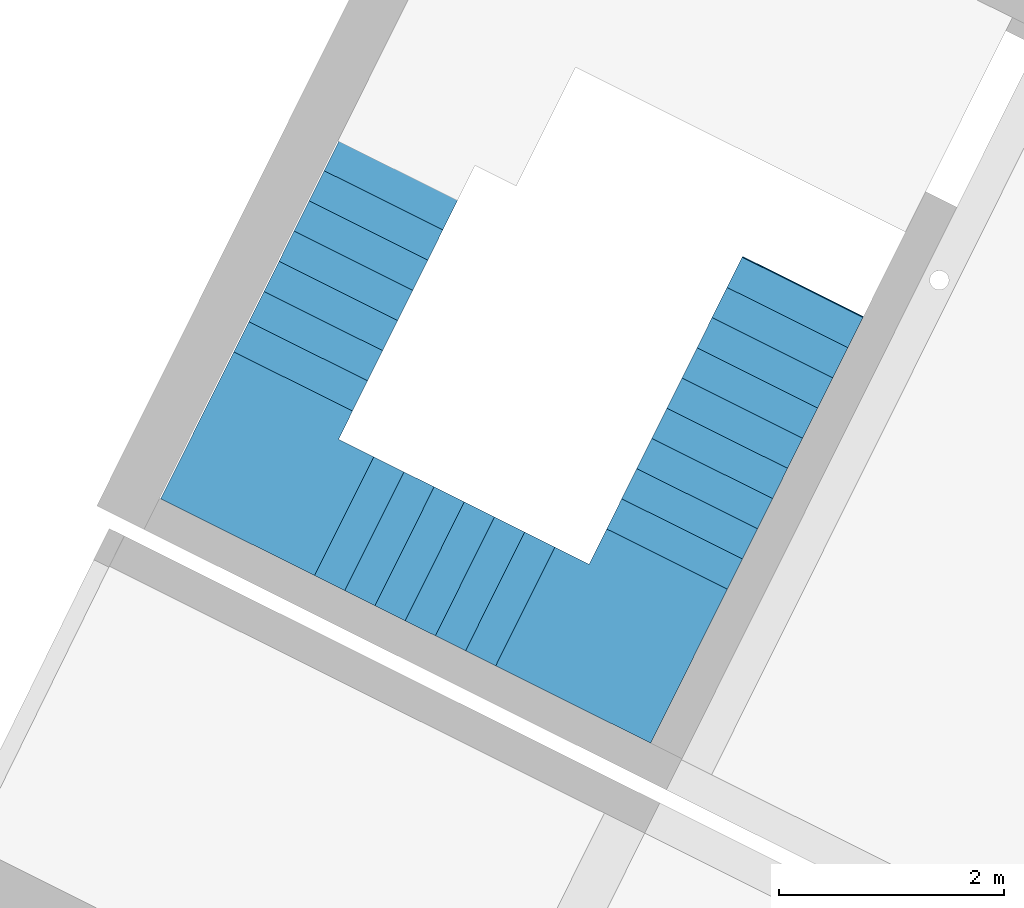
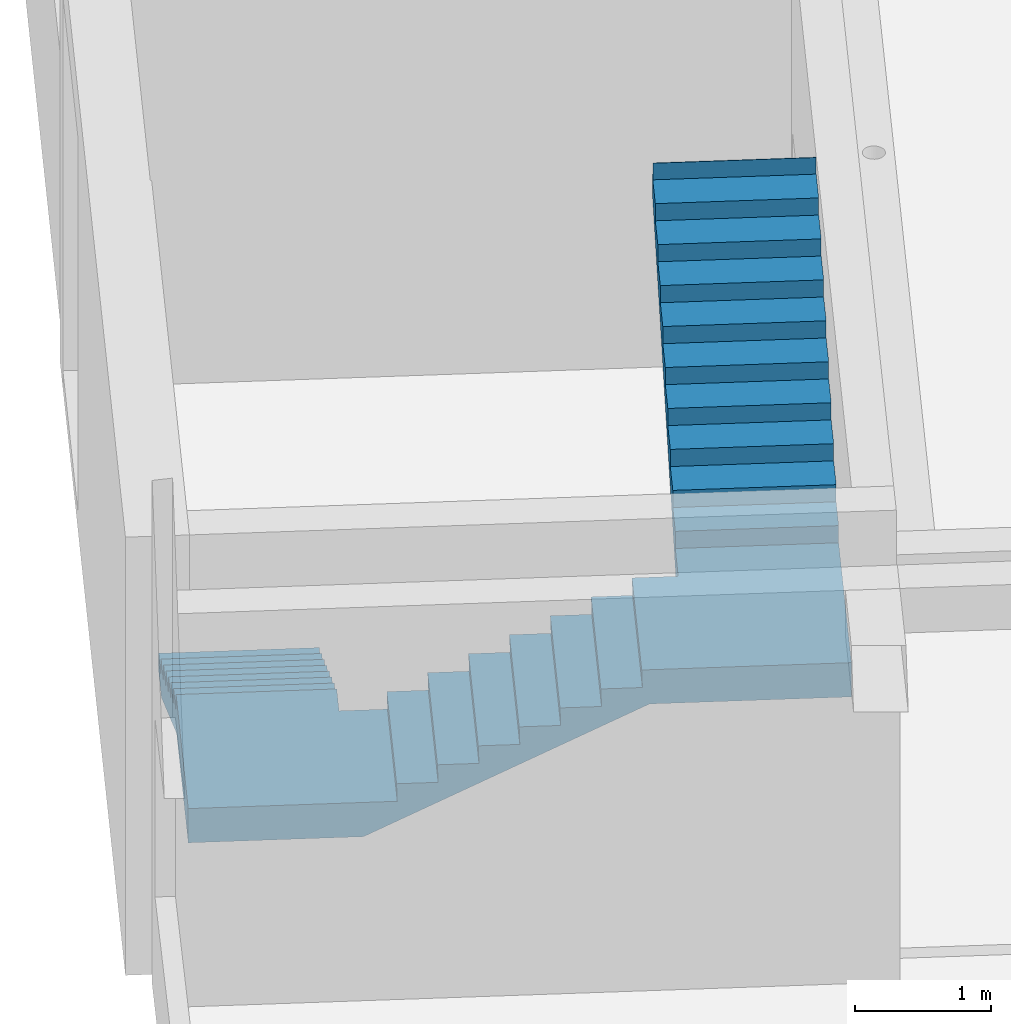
# One storey, part 13 of 47: 1 stair, 1 element without a shape of its own.
"""IFC2X3 building model written with IfcOpenShell, lengths in metres."""

from ifc_helpers import new_model, entity, si_unit, converted_unit, derived_unit, direction, frame, origin, place, context, subcontext, project, spatial, faceted_brep, material, material_list, element, aggregate, save


model = new_model("IFC2X3")

# Units and contexts
model_context = context("Model", 3, precision=1e-05, world=origin(), true_north=direction((0.894925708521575, 0.446215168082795)))
context_of_model = context(None, 3, precision=1e-05, world=origin(), true_north=direction((0.894925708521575, 0.446215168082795)))
body_context = subcontext(model_context, "Body", "Model", "MODEL_VIEW")
ifc_project = project(units=[si_unit("LENGTHUNIT", "METRE"), si_unit("AREAUNIT", "SQUARE_METRE"), si_unit("VOLUMEUNIT", "CUBIC_METRE"), converted_unit("PLANEANGLEUNIT", "DEGREE", entity("IfcRatioMeasure", 0.0174532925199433), si_unit("PLANEANGLEUNIT", "RADIAN"), dimensions=[0, 0, 0, 0, 0, 0, 0]), si_unit("MASSUNIT", "GRAM", prefix="KILO"), si_unit("TIMEUNIT", "SECOND"), si_unit("FREQUENCYUNIT", "HERTZ"), si_unit("THERMODYNAMICTEMPERATUREUNIT", "DEGREE_CELSIUS"), derived_unit("THERMALTRANSMITTANCEUNIT", [(si_unit("MASSUNIT", "GRAM", prefix="KILO"), 1), (si_unit("THERMODYNAMICTEMPERATUREUNIT", "KELVIN"), -1), (si_unit("TIMEUNIT", "SECOND"), -3)]), derived_unit("VOLUMETRICFLOWRATEUNIT", [(si_unit("LENGTHUNIT", "METRE"), 3), (si_unit("TIMEUNIT", "SECOND"), -1)]), si_unit("ELECTRICCURRENTUNIT", "AMPERE"), si_unit("ELECTRICVOLTAGEUNIT", "VOLT"), si_unit("POWERUNIT", "WATT"), si_unit("FORCEUNIT", "NEWTON", prefix="KILO"), si_unit("ILLUMINANCEUNIT", "LUX"), si_unit("LUMINOUSFLUXUNIT", "LUMEN"), si_unit("LUMINOUSINTENSITYUNIT", "CANDELA"), si_unit("PRESSUREUNIT", "PASCAL")], contexts=[model_context, context_of_model])

# Site, building, storey
site_placement = place(None, frame((218.228324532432, 584.720189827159, 0.0), z_axis=(0.0, 0.0, 1.0), x_axis=(0.446215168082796, 0.894925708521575, 0.0)))
site = spatial("IfcSite", under=ifc_project, at=site_placement, Name="Default", CompositionType="ELEMENT")
building_placement = place(site_placement, origin())
building = spatial("IfcBuilding", under=site, at=building_placement, CompositionType="ELEMENT")
storey_placement = place(building_placement, frame((0.0, 0.0, 4.69)))
storey = spatial("IfcBuildingStorey", under=building, at=storey_placement, Name="1 - Piano Primo", CompositionType="ELEMENT", Elevation=4.69)

# Stairs
stair_1_placement = place(storey_placement, frame((-60.2194493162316, 1.10892100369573, 0.0)))
stair_1 = element("IfcStair", 1, at=stair_1_placement, inside=storey, Name="Scala:Cls - Rivertita di gomma", ObjectType="Scala:Cls - Rivertita di gomma", ShapeType="NOTDEFINED")
ifc_material_1 = material(Name="Default - Calcestruzzo")
ifc_material_2 = material(Name="<Unnamed>")
ifc_material_list = material_list([ifc_material_1, ifc_material_2])
stair_2_placement = place(stair_1_placement, origin())
stair_2 = element("IfcStair", 2, at=stair_2_placement, material=ifc_material_list, Name="Scala:Cls - Rivertita di gomma", ObjectType="Scala:Cls - Rivertita di gomma", ShapeType="NOTDEFINED", context=body_context, shape_type="Brep", body=[
    faceted_brep([(1.40269359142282, 3.69000000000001, 0.947987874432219), (1.40269359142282, 4.87000000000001, 0.947987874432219), (3.21644590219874, 4.87000000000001, 0.0), (3.21644590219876, 3.69000000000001, 0.0), (1.18, 3.69000000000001, 0.947987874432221), (1.18, 3.58269359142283, 0.947987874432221), (0.0, 3.58269359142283, 0.947987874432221), (0.0, 4.87000000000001, 0.947987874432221), (1.18, 1.48269359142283, 2.04558787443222), (0.0, 1.48269359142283, 2.04558787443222), (1.18, 1.20000000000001, 2.04558787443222), (1.28730640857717, 1.20000000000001, 2.04558787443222), (1.28730640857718, 0.0, 2.04558787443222), (0.0, 0.0, 2.04558787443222), (4.24016198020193, 1.2, 3.58894705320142), (4.24016198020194, 0.0, 3.58894705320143), (3.55483801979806, 3.69000000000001, 0.1518), (3.55483801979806, 4.87000000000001, 0.1518), (3.24983801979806, 4.87000000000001, 0.1518), (3.24983801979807, 3.69000000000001, 0.1518), (2.94983801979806, 3.69000000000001, 0.308600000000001), (3.25483801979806, 3.69000000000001, 0.308600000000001), (3.25483801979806, 4.87000000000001, 0.308600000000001), (2.94983801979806, 4.87000000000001, 0.308600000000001), (2.64983801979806, 3.69000000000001, 0.4654), (2.95483801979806, 3.69000000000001, 0.4654), (2.95483801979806, 4.87000000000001, 0.4654), (2.64983801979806, 4.87000000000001, 0.4654), (2.34983801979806, 3.69000000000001, 0.622200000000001), (2.65483801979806, 3.69000000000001, 0.622200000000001), (2.65483801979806, 4.87000000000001, 0.622200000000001), (2.34983801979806, 4.87000000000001, 0.622200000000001), (2.04983801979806, 3.69000000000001, 0.779), (2.35483801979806, 3.69000000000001, 0.779), (2.35483801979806, 4.87000000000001, 0.779), (2.04983801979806, 4.87000000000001, 0.779), (1.74983801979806, 3.69000000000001, 0.935800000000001), (2.05483801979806, 3.69000000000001, 0.935800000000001), (2.05483801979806, 4.87000000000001, 0.935800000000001), (1.74983801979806, 4.87000000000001, 0.935800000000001), (1.18, 3.69000000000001, 1.2494), (1.45483801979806, 3.69000000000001, 1.2494), (1.45483801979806, 4.87000000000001, 1.2494), (0.0, 4.87000000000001, 1.2494), (0.0, 3.32983801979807, 1.2494), (1.18, 3.32983801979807, 1.2494), (0.0, 0.0, 2.347), (0.0, 1.53483801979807, 2.347), (0.0, 1.52983801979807, 2.1902), (0.0, 1.83483801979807, 2.1902), (0.0, 1.82983801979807, 2.0334), (0.0, 2.13483801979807, 2.0334), (0.0, 2.12983801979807, 1.8766), (0.0, 2.43483801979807, 1.8766), (0.0, 2.42983801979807, 1.7198), (0.0, 2.73483801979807, 1.7198), (0.0, 2.72983801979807, 1.563), (0.0, 3.03483801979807, 1.563), (0.0, 3.02983801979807, 1.4062), (0.0, 3.33483801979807, 1.4062), (1.18, 3.02983801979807, 1.4062), (1.18, 3.33483801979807, 1.4062), (1.18, 2.72983801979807, 1.563), (1.18, 3.03483801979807, 1.563), (1.18, 2.42983801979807, 1.7198), (1.18, 2.73483801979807, 1.7198), (1.18, 2.12983801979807, 1.8766), (1.18, 2.43483801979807, 1.8766), (1.18, 1.82983801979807, 2.0334), (1.18, 2.13483801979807, 2.0334), (1.18, 1.52983801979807, 2.1902), (1.18, 1.83483801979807, 2.1902), (1.84016198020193, 1.20000000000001, 2.5038), (1.53516198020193, 1.20000000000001, 2.5038), (1.53516198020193, 0.0, 2.5038), (1.84016198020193, 0.0, 2.5038), (3.54999745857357, 4.87000000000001, 0.0), (3.54999745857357, 3.69000000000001, 0.0), (1.75483801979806, 3.69000000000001, 1.0926), (1.44983801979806, 3.69000000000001, 1.0926), (1.44983801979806, 4.87000000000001, 1.0926), (1.75483801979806, 4.87000000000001, 1.0926), (1.18, 1.53483801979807, 2.347), (1.18, 1.20000000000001, 2.347), (1.54016198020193, 0.0, 2.347), (1.54016198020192, 1.20000000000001, 2.347), (1.83516198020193, 1.20000000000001, 2.6606), (2.14016198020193, 1.20000000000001, 2.6606), (2.13516198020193, 1.20000000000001, 2.8174), (2.44016198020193, 1.20000000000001, 2.8174), (2.43516198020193, 1.20000000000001, 2.9742), (2.74016198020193, 1.20000000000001, 2.9742), (2.73516198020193, 1.2, 3.131), (3.04016198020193, 1.2, 3.131), (3.03516198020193, 1.2, 3.2878), (3.34016198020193, 1.2, 3.2878), (3.33516198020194, 1.2, 3.4446), (3.64016198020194, 1.2, 3.4446), (3.63516198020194, 1.2, 3.6014), (3.94016198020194, 1.2, 3.6014), (3.93516198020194, 1.2, 3.7582), (4.24016198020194, 1.2, 3.7582), (4.24016198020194, 0.0, 3.7582), (3.93516198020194, 0.0, 3.7582), (3.94016198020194, 0.0, 3.6014), (3.63516198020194, 0.0, 3.6014), (3.64016198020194, 0.0, 3.4446), (3.33516198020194, 0.0, 3.4446), (3.34016198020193, 0.0, 3.2878), (3.03516198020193, 0.0, 3.2878), (3.04016198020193, 0.0, 3.131), (2.73516198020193, 0.0, 3.131), (2.74016198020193, 0.0, 2.9742), (2.43516198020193, 0.0, 2.9742), (2.44016198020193, 0.0, 2.8174), (2.13516198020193, 0.0, 2.8174), (2.14016198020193, 0.0, 2.6606), (1.83516198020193, 0.0, 2.6606)], [[[0, 1, 2, 3]], [[1, 0, 4, 5, 6, 7]], [[6, 5, 8, 9]], [[9, 8, 10, 11, 12, 13]], [[12, 11, 14, 15]], [[16, 17, 18, 19]], [[20, 21, 22, 23]], [[24, 25, 26, 27]], [[28, 29, 30, 31]], [[32, 33, 34, 35]], [[36, 37, 38, 39]], [[40, 41, 42, 43, 44, 45]], [[44, 43, 7, 6, 9, 13, 46, 47, 48, 49, 50, 51, 52, 53, 54, 55, 56, 57, 58, 59]], [[60, 61, 59, 58]], [[62, 63, 57, 56]], [[64, 65, 55, 54]], [[66, 67, 53, 52]], [[68, 69, 51, 50]], [[70, 71, 49, 48]], [[72, 73, 74, 75]], [[76, 77, 3, 2]], [[16, 19, 21, 20, 25, 24, 29, 28, 33, 32, 37, 36, 78, 79, 41, 40, 4, 0, 3, 77]], [[18, 17, 76, 2, 1, 7, 43, 42, 80, 81, 39, 38, 35, 34, 31, 30, 27, 26, 23, 22]], [[79, 78, 81, 80]], [[40, 45, 61, 60, 63, 62, 65, 64, 67, 66, 69, 68, 71, 70, 82, 83, 10, 8, 5, 4]], [[83, 82, 47, 46, 84, 85]], [[83, 85, 73, 72, 86, 87, 88, 89, 90, 91, 92, 93, 94, 95, 96, 97, 98, 99, 100, 101, 14, 11, 10]], [[84, 46, 13, 12, 15, 102, 103, 104, 105, 106, 107, 108, 109, 110, 111, 112, 113, 114, 115, 116, 117, 75, 74]], [[87, 86, 117, 116]], [[89, 88, 115, 114]], [[91, 90, 113, 112]], [[93, 92, 111, 110]], [[95, 94, 109, 108]], [[97, 96, 107, 106]], [[99, 98, 105, 104]], [[101, 100, 103, 102]], [[101, 102, 15, 14]], [[17, 16, 77, 76]], [[19, 18, 22, 21]], [[25, 20, 23, 26]], [[29, 24, 27, 30]], [[33, 28, 31, 34]], [[37, 32, 35, 38]], [[78, 36, 39, 81]], [[41, 79, 80, 42]], [[45, 44, 59, 61]], [[63, 60, 58, 57]], [[65, 62, 56, 55]], [[67, 64, 54, 53]], [[69, 66, 52, 51]], [[71, 68, 50, 49]], [[82, 70, 48, 47]], [[85, 84, 74, 73]], [[86, 72, 75, 117]], [[88, 87, 116, 115]], [[90, 89, 114, 113]], [[92, 91, 112, 111]], [[94, 93, 110, 109]], [[96, 95, 108, 107]], [[98, 97, 106, 105]], [[100, 99, 104, 103]]]),
    faceted_brep([(3.255, 3.69000000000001, 0.1568), (3.56, 3.69000000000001, 0.1568), (3.56, 4.87000000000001, 0.1568), (3.255, 4.87000000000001, 0.1568), (3.56, 3.69000000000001, 0.1518), (3.255, 3.69000000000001, 0.1518), (3.255, 4.87000000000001, 0.1518), (3.56, 4.87000000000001, 0.1518)], [[[0, 1, 2, 3]], [[4, 5, 6, 7]], [[2, 1, 4, 7]], [[0, 3, 6, 5]], [[1, 0, 5, 4]], [[3, 2, 7, 6]]]),
    faceted_brep([(3.55984056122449, 4.87000000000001, 0.1518), (3.555, 4.87000000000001, 0.0), (3.54999745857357, 4.87000000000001, 0.0), (3.55483801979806, 4.87000000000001, 0.1518), (3.55984056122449, 3.69000000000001, 0.1518), (3.55483801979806, 3.69000000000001, 0.1518), (3.54999745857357, 3.69000000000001, 0.0), (3.555, 3.69000000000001, 0.0)], [[[0, 1, 2, 3]], [[4, 5, 6, 7]], [[1, 0, 4, 7]], [[2, 1, 7, 6]], [[3, 2, 6, 5]], [[0, 3, 5, 4]]]),
    faceted_brep([(3.25984056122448, 4.87000000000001, 0.308600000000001), (3.25484056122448, 4.87000000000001, 0.1518), (3.24983801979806, 4.87000000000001, 0.1518), (3.25483801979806, 4.87000000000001, 0.308600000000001), (3.25984056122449, 3.69000000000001, 0.308600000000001), (3.25483801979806, 3.69000000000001, 0.308600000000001), (3.24983801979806, 3.69000000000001, 0.1518), (3.25484056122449, 3.69000000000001, 0.1518)], [[[0, 1, 2, 3]], [[4, 5, 6, 7]], [[1, 0, 4, 7]], [[2, 1, 7, 6]], [[3, 2, 6, 5]], [[0, 3, 5, 4]]]),
    faceted_brep([(2.955, 3.69000000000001, 0.3136), (3.26, 3.69000000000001, 0.3136), (3.26, 4.87000000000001, 0.3136), (2.955, 4.87000000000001, 0.3136), (3.26, 3.69000000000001, 0.308600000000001), (2.955, 3.69000000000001, 0.308600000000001), (2.955, 4.87000000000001, 0.308600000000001), (3.26, 4.87000000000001, 0.308600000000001)], [[[0, 1, 2, 3]], [[4, 5, 6, 7]], [[0, 3, 6, 5]], [[1, 0, 5, 4]], [[3, 2, 7, 6]], [[2, 1, 4, 7]]]),
    faceted_brep([(2.95984056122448, 4.87000000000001, 0.4654), (2.95484056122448, 4.87000000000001, 0.308600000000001), (2.94983801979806, 4.87000000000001, 0.308600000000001), (2.95483801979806, 4.87000000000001, 0.4654), (2.95984056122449, 3.69000000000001, 0.4654), (2.95483801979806, 3.69000000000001, 0.4654), (2.94983801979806, 3.69000000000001, 0.308600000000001), (2.95484056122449, 3.69000000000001, 0.308600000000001)], [[[0, 1, 2, 3]], [[4, 5, 6, 7]], [[1, 0, 4, 7]], [[2, 1, 7, 6]], [[3, 2, 6, 5]], [[0, 3, 5, 4]]]),
    faceted_brep([(2.65499999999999, 3.69000000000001, 0.470400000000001), (2.95999999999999, 3.69000000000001, 0.470400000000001), (2.95999999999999, 4.87000000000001, 0.470400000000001), (2.65499999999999, 4.87000000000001, 0.470400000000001), (2.95999999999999, 3.69000000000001, 0.4654), (2.65499999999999, 3.69000000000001, 0.4654), (2.65499999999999, 4.87000000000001, 0.4654), (2.95999999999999, 4.87000000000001, 0.4654)], [[[0, 1, 2, 3]], [[4, 5, 6, 7]], [[0, 3, 6, 5]], [[1, 0, 5, 4]], [[3, 2, 7, 6]], [[2, 1, 4, 7]]]),
    faceted_brep([(2.65984056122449, 4.87000000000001, 0.622200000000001), (2.65484056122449, 4.87000000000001, 0.4654), (2.64983801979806, 4.87000000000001, 0.4654), (2.65483801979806, 4.87000000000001, 0.622200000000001), (2.65984056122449, 3.69000000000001, 0.622200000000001), (2.65483801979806, 3.69000000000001, 0.622200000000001), (2.64983801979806, 3.69000000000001, 0.4654), (2.6548405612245, 3.69000000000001, 0.4654)], [[[0, 1, 2, 3]], [[4, 5, 6, 7]], [[1, 0, 4, 7]], [[2, 1, 7, 6]], [[3, 2, 6, 5]], [[0, 3, 5, 4]]]),
    faceted_brep([(2.355, 3.69000000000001, 0.6272), (2.66, 3.69000000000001, 0.6272), (2.66, 4.87000000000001, 0.6272), (2.355, 4.87000000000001, 0.6272), (2.66, 3.69000000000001, 0.622200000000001), (2.355, 3.69000000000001, 0.622200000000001), (2.355, 4.87000000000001, 0.622200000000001), (2.66, 4.87000000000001, 0.622200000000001)], [[[0, 1, 2, 3]], [[4, 5, 6, 7]], [[0, 3, 6, 5]], [[1, 0, 5, 4]], [[3, 2, 7, 6]], [[2, 1, 4, 7]]]),
    faceted_brep([(2.35984056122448, 4.87000000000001, 0.779), (2.35484056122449, 4.87000000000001, 0.622199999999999), (2.34983801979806, 4.87000000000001, 0.622199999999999), (2.35483801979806, 4.87000000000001, 0.779), (2.35984056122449, 3.69000000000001, 0.779), (2.35483801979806, 3.69000000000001, 0.779), (2.34983801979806, 3.69000000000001, 0.622199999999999), (2.35484056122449, 3.69000000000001, 0.622199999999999)], [[[0, 1, 2, 3]], [[4, 5, 6, 7]], [[1, 0, 4, 7]], [[2, 1, 7, 6]], [[3, 2, 6, 5]], [[0, 3, 5, 4]]]),
    faceted_brep([(2.055, 3.69000000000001, 0.783999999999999), (2.36, 3.69000000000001, 0.783999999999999), (2.36, 4.87000000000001, 0.783999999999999), (2.055, 4.87000000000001, 0.783999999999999), (2.36, 3.69000000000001, 0.779), (2.055, 3.69000000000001, 0.779), (2.055, 4.87000000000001, 0.779), (2.36, 4.87000000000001, 0.779)], [[[0, 1, 2, 3]], [[4, 5, 6, 7]], [[0, 3, 6, 5]], [[1, 0, 5, 4]], [[3, 2, 7, 6]], [[2, 1, 4, 7]]]),
    faceted_brep([(2.05984056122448, 4.87000000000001, 0.935800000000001), (2.05484056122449, 4.87000000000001, 0.779), (2.04983801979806, 4.87000000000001, 0.779), (2.05483801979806, 4.87000000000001, 0.935800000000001), (2.05984056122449, 3.69000000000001, 0.935800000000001), (2.05483801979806, 3.69000000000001, 0.935800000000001), (2.04983801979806, 3.69000000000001, 0.779), (2.05484056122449, 3.69000000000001, 0.779)], [[[0, 1, 2, 3]], [[4, 5, 6, 7]], [[1, 0, 4, 7]], [[2, 1, 7, 6]], [[3, 2, 6, 5]], [[0, 3, 5, 4]]]),
    faceted_brep([(1.755, 3.69000000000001, 0.9408), (2.06, 3.69000000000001, 0.9408), (2.06, 4.87000000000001, 0.9408), (1.755, 4.87000000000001, 0.9408), (2.06, 3.69000000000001, 0.935800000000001), (1.755, 3.69000000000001, 0.935800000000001), (1.755, 4.87000000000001, 0.935800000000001), (2.06, 4.87000000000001, 0.935800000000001)], [[[0, 1, 2, 3]], [[4, 5, 6, 7]], [[0, 3, 6, 5]], [[1, 0, 5, 4]], [[3, 2, 7, 6]], [[2, 1, 4, 7]]]),
    faceted_brep([(1.45984056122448, 4.87000000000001, 1.2494), (1.45484056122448, 4.87000000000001, 1.0926), (1.44983801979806, 4.87000000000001, 1.0926), (1.45483801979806, 4.87000000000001, 1.2494), (1.45984056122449, 3.69000000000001, 1.2494), (1.45483801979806, 3.69000000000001, 1.2494), (1.44983801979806, 3.69000000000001, 1.0926), (1.45484056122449, 3.69000000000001, 1.0926)], [[[0, 1, 2, 3]], [[4, 5, 6, 7]], [[1, 0, 4, 7]], [[2, 1, 7, 6]], [[3, 2, 6, 5]], [[0, 3, 5, 4]]]),
    faceted_brep([(1.18, 3.33500000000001, 1.2544), (1.18, 3.69000000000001, 1.2544), (1.46, 3.69000000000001, 1.2544), (1.46, 4.87000000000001, 1.2544), (0.0, 4.87000000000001, 1.2544), (0.0, 3.33500000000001, 1.2544), (1.18, 3.69000000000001, 1.2494), (1.18, 3.33500000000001, 1.2494), (0.0, 3.33500000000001, 1.2494), (0.0, 4.87000000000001, 1.2494), (1.46, 4.87000000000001, 1.2494), (1.46, 3.69000000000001, 1.2494)], [[[0, 1, 2, 3, 4, 5]], [[6, 7, 8, 9, 10, 11]], [[4, 3, 10, 9]], [[5, 4, 9, 8]], [[0, 5, 8, 7]], [[1, 0, 7, 6]], [[2, 1, 6, 11]], [[3, 2, 11, 10]]]),
    faceted_brep([(0.0, 3.3398405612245, 1.4062), (0.0, 3.3348405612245, 1.2494), (0.0, 3.32983801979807, 1.2494), (0.0, 3.33483801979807, 1.4062), (1.18, 3.3398405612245, 1.4062), (1.18, 3.33483801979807, 1.4062), (1.18, 3.32983801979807, 1.2494), (1.18, 3.3348405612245, 1.2494)], [[[0, 1, 2, 3]], [[4, 5, 6, 7]], [[1, 0, 4, 7]], [[2, 1, 7, 6]], [[3, 2, 6, 5]], [[0, 3, 5, 4]]]),
    faceted_brep([(1.18, 3.03500000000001, 1.4112), (1.18, 3.34000000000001, 1.4112), (0.0, 3.34000000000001, 1.4112), (0.0, 3.03500000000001, 1.4112), (1.18, 3.34000000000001, 1.4062), (1.18, 3.03500000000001, 1.4062), (0.0, 3.03500000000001, 1.4062), (0.0, 3.34000000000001, 1.4062)], [[[0, 1, 2, 3]], [[4, 5, 6, 7]], [[3, 2, 7, 6]], [[0, 3, 6, 5]], [[1, 0, 5, 4]], [[2, 1, 4, 7]]]),
    faceted_brep([(0.0, 3.0398405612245, 1.563), (0.0, 3.0348405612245, 1.4062), (0.0, 3.02983801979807, 1.4062), (0.0, 3.03483801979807, 1.563), (1.18, 3.0398405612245, 1.563), (1.18, 3.03483801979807, 1.563), (1.18, 3.02983801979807, 1.4062), (1.18, 3.0348405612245, 1.4062)], [[[0, 1, 2, 3]], [[4, 5, 6, 7]], [[1, 0, 4, 7]], [[2, 1, 7, 6]], [[3, 2, 6, 5]], [[0, 3, 5, 4]]]),
    faceted_brep([(1.18, 2.73500000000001, 1.568), (1.18, 3.04000000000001, 1.568), (0.0, 3.04000000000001, 1.568), (0.0, 2.73500000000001, 1.568), (1.18, 3.04000000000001, 1.563), (1.18, 2.73500000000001, 1.563), (0.0, 2.73500000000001, 1.563), (0.0, 3.04000000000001, 1.563)], [[[0, 1, 2, 3]], [[4, 5, 6, 7]], [[3, 2, 7, 6]], [[0, 3, 6, 5]], [[1, 0, 5, 4]], [[2, 1, 4, 7]]]),
    faceted_brep([(0.0, 2.7398405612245, 1.7198), (0.0, 2.7348405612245, 1.563), (0.0, 2.72983801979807, 1.563), (0.0, 2.73483801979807, 1.7198), (1.18, 2.7398405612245, 1.7198), (1.18, 2.73483801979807, 1.7198), (1.18, 2.72983801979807, 1.563), (1.18, 2.7348405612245, 1.563)], [[[0, 1, 2, 3]], [[4, 5, 6, 7]], [[1, 0, 4, 7]], [[2, 1, 7, 6]], [[3, 2, 6, 5]], [[0, 3, 5, 4]]]),
    faceted_brep([(1.18, 2.43500000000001, 1.7248), (1.18, 2.74000000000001, 1.7248), (0.0, 2.74000000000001, 1.7248), (0.0, 2.43500000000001, 1.7248), (1.18, 2.74000000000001, 1.7198), (1.18, 2.43500000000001, 1.7198), (0.0, 2.43500000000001, 1.7198), (0.0, 2.74000000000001, 1.7198)], [[[0, 1, 2, 3]], [[4, 5, 6, 7]], [[3, 2, 7, 6]], [[0, 3, 6, 5]], [[1, 0, 5, 4]], [[2, 1, 4, 7]]]),
    faceted_brep([(0.0, 2.4398405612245, 1.8766), (0.0, 2.4348405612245, 1.7198), (0.0, 2.42983801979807, 1.7198), (0.0, 2.43483801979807, 1.8766), (1.18, 2.4398405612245, 1.8766), (1.18, 2.43483801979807, 1.8766), (1.18, 2.42983801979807, 1.7198), (1.18, 2.4348405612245, 1.7198)], [[[0, 1, 2, 3]], [[4, 5, 6, 7]], [[1, 0, 4, 7]], [[2, 1, 7, 6]], [[3, 2, 6, 5]], [[0, 3, 5, 4]]]),
    faceted_brep([(1.18, 2.13500000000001, 1.8816), (1.18, 2.44000000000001, 1.8816), (0.0, 2.44000000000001, 1.8816), (0.0, 2.13500000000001, 1.8816), (1.18, 2.44000000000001, 1.8766), (1.18, 2.13500000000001, 1.8766), (0.0, 2.13500000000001, 1.8766), (0.0, 2.44000000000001, 1.8766)], [[[0, 1, 2, 3]], [[4, 5, 6, 7]], [[3, 2, 7, 6]], [[0, 3, 6, 5]], [[1, 0, 5, 4]], [[2, 1, 4, 7]]]),
    faceted_brep([(0.0, 2.1398405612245, 2.0334), (0.0, 2.1348405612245, 1.8766), (0.0, 2.12983801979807, 1.8766), (0.0, 2.13483801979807, 2.0334), (1.18, 2.1398405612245, 2.0334), (1.18, 2.13483801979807, 2.0334), (1.18, 2.12983801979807, 1.8766), (1.18, 2.1348405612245, 1.8766)], [[[0, 1, 2, 3]], [[4, 5, 6, 7]], [[1, 0, 4, 7]], [[2, 1, 7, 6]], [[3, 2, 6, 5]], [[0, 3, 5, 4]]]),
    faceted_brep([(1.18, 1.83500000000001, 2.0384), (1.18, 2.14000000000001, 2.0384), (0.0, 2.14000000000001, 2.0384), (0.0, 1.83500000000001, 2.0384), (1.18, 2.14000000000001, 2.0334), (1.18, 1.83500000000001, 2.0334), (0.0, 1.83500000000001, 2.0334), (0.0, 2.14000000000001, 2.0334)], [[[0, 1, 2, 3]], [[4, 5, 6, 7]], [[3, 2, 7, 6]], [[0, 3, 6, 5]], [[1, 0, 5, 4]], [[2, 1, 4, 7]]]),
    faceted_brep([(0.0, 1.8398405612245, 2.1902), (0.0, 1.8348405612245, 2.0334), (0.0, 1.82983801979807, 2.0334), (0.0, 1.83483801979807, 2.1902), (1.18, 1.8398405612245, 2.1902), (1.18, 1.83483801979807, 2.1902), (1.18, 1.82983801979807, 2.0334), (1.18, 1.8348405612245, 2.0334)], [[[0, 1, 2, 3]], [[4, 5, 6, 7]], [[1, 0, 4, 7]], [[2, 1, 7, 6]], [[3, 2, 6, 5]], [[0, 3, 5, 4]]]),
    faceted_brep([(1.18, 1.53500000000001, 2.1952), (1.18, 1.84000000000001, 2.1952), (0.0, 1.84000000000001, 2.1952), (0.0, 1.53500000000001, 2.1952), (1.18, 1.84000000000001, 2.1902), (1.18, 1.53500000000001, 2.1902), (0.0, 1.53500000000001, 2.1902), (0.0, 1.84000000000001, 2.1902)], [[[0, 1, 2, 3]], [[4, 5, 6, 7]], [[3, 2, 7, 6]], [[0, 3, 6, 5]], [[1, 0, 5, 4]], [[2, 1, 4, 7]]]),
    faceted_brep([(1.83499999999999, 1.20000000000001, 2.5088), (1.52999999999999, 1.20000000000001, 2.5088), (1.52999999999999, 0.0, 2.5088), (1.83499999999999, 0.0, 2.5088), (1.52999999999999, 1.20000000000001, 2.5038), (1.83499999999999, 1.20000000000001, 2.5038), (1.83499999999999, 0.0, 2.5038), (1.52999999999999, 0.0, 2.5038)], [[[0, 1, 2, 3]], [[4, 5, 6, 7]], [[1, 0, 5, 4]], [[3, 2, 7, 6]], [[0, 3, 6, 5]], [[2, 1, 4, 7]]]),
    faceted_brep([(1.75984056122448, 4.87000000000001, 1.0926), (1.75484056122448, 4.87000000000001, 0.935799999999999), (1.74983801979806, 4.87000000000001, 0.935799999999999), (1.75483801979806, 4.87000000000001, 1.0926), (1.75984056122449, 3.69000000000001, 1.0926), (1.75483801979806, 3.69000000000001, 1.0926), (1.74983801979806, 3.69000000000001, 0.935799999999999), (1.75484056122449, 3.69000000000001, 0.935799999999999)], [[[0, 1, 2, 3]], [[4, 5, 6, 7]], [[1, 0, 4, 7]], [[2, 1, 7, 6]], [[3, 2, 6, 5]], [[0, 3, 5, 4]]]),
    faceted_brep([(1.455, 3.69000000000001, 1.0976), (1.76, 3.69000000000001, 1.0976), (1.76, 4.87000000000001, 1.0976), (1.455, 4.87000000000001, 1.0976), (1.76, 3.69000000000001, 1.0926), (1.455, 3.69000000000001, 1.0926), (1.455, 4.87000000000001, 1.0926), (1.76, 4.87000000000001, 1.0926)], [[[0, 1, 2, 3]], [[4, 5, 6, 7]], [[1, 0, 5, 4]], [[3, 2, 7, 6]], [[0, 3, 6, 5]], [[2, 1, 4, 7]]]),
    faceted_brep([(0.0, 1.5398405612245, 2.347), (0.0, 1.5348405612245, 2.1902), (0.0, 1.52983801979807, 2.1902), (0.0, 1.53483801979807, 2.347), (1.18, 1.5398405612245, 2.347), (1.18, 1.53483801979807, 2.347), (1.18, 1.52983801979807, 2.1902), (1.18, 1.5348405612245, 2.1902)], [[[0, 1, 2, 3]], [[4, 5, 6, 7]], [[1, 0, 4, 7]], [[2, 1, 7, 6]], [[3, 2, 6, 5]], [[0, 3, 5, 4]]]),
    faceted_brep([(1.53499999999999, 1.20000000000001, 2.352), (1.18, 1.20000000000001, 2.352), (1.18, 1.54000000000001, 2.352), (0.0, 1.54000000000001, 2.352), (0.0, 0.0, 2.352), (1.53499999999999, 0.0, 2.352), (1.18, 1.20000000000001, 2.347), (1.53499999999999, 1.20000000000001, 2.347), (1.53499999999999, 0.0, 2.347), (0.0, 0.0, 2.347), (0.0, 1.54000000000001, 2.347), (1.18, 1.54000000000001, 2.347)], [[[0, 1, 2, 3, 4, 5]], [[6, 7, 8, 9, 10, 11]], [[1, 0, 7, 6]], [[2, 1, 6, 11]], [[4, 3, 10, 9]], [[5, 4, 9, 8]], [[0, 5, 8, 7]], [[3, 2, 11, 10]]]),
    faceted_brep([(1.53015943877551, 0.0, 2.5038), (1.5351594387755, 0.0, 2.347), (1.54016198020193, 0.0, 2.347), (1.53516198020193, 0.0, 2.5038), (1.5301594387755, 1.20000000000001, 2.5038), (1.53516198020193, 1.20000000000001, 2.5038), (1.54016198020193, 1.20000000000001, 2.347), (1.5351594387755, 1.20000000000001, 2.347)], [[[0, 1, 2, 3]], [[4, 5, 6, 7]], [[1, 0, 4, 7]], [[2, 1, 7, 6]], [[3, 2, 6, 5]], [[0, 3, 5, 4]]]),
    faceted_brep([(1.83015943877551, 0.0, 2.6606), (1.83515943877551, 0.0, 2.5038), (1.84016198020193, 0.0, 2.5038), (1.83516198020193, 0.0, 2.6606), (1.8301594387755, 1.20000000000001, 2.6606), (1.83516198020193, 1.20000000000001, 2.6606), (1.84016198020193, 1.20000000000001, 2.5038), (1.8351594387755, 1.20000000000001, 2.5038)], [[[0, 1, 2, 3]], [[4, 5, 6, 7]], [[1, 0, 4, 7]], [[2, 1, 7, 6]], [[3, 2, 6, 5]], [[0, 3, 5, 4]]]),
    faceted_brep([(2.13499999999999, 1.20000000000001, 2.6656), (1.82999999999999, 1.20000000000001, 2.6656), (1.82999999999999, 0.0, 2.6656), (2.13499999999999, 0.0, 2.6656), (1.82999999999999, 1.20000000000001, 2.6606), (2.13499999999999, 1.20000000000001, 2.6606), (2.13499999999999, 0.0, 2.6606), (1.82999999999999, 0.0, 2.6606)], [[[0, 1, 2, 3]], [[4, 5, 6, 7]], [[1, 0, 5, 4]], [[3, 2, 7, 6]], [[0, 3, 6, 5]], [[2, 1, 4, 7]]]),
    faceted_brep([(2.13015943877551, 0.0, 2.8174), (2.13515943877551, 0.0, 2.6606), (2.14016198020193, 0.0, 2.6606), (2.13516198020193, 0.0, 2.8174), (2.1301594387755, 1.20000000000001, 2.8174), (2.13516198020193, 1.20000000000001, 2.8174), (2.14016198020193, 1.20000000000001, 2.6606), (2.1351594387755, 1.20000000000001, 2.6606)], [[[0, 1, 2, 3]], [[4, 5, 6, 7]], [[1, 0, 4, 7]], [[2, 1, 7, 6]], [[3, 2, 6, 5]], [[0, 3, 5, 4]]]),
    faceted_brep([(2.43499999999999, 1.20000000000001, 2.8224), (2.12999999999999, 1.20000000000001, 2.8224), (2.12999999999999, 0.0, 2.8224), (2.43499999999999, 0.0, 2.8224), (2.12999999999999, 1.20000000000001, 2.8174), (2.43499999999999, 1.20000000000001, 2.8174), (2.43499999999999, 0.0, 2.8174), (2.12999999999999, 0.0, 2.8174)], [[[0, 1, 2, 3]], [[4, 5, 6, 7]], [[1, 0, 5, 4]], [[3, 2, 7, 6]], [[0, 3, 6, 5]], [[2, 1, 4, 7]]]),
    faceted_brep([(2.43015943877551, 0.0, 2.9742), (2.43515943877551, 0.0, 2.8174), (2.44016198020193, 0.0, 2.8174), (2.43516198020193, 0.0, 2.9742), (2.4301594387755, 1.20000000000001, 2.9742), (2.43516198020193, 1.20000000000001, 2.9742), (2.44016198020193, 1.20000000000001, 2.8174), (2.4351594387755, 1.20000000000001, 2.8174)], [[[0, 1, 2, 3]], [[4, 5, 6, 7]], [[1, 0, 4, 7]], [[2, 1, 7, 6]], [[3, 2, 6, 5]], [[0, 3, 5, 4]]]),
    faceted_brep([(2.73499999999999, 1.20000000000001, 2.9792), (2.42999999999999, 1.20000000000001, 2.9792), (2.42999999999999, 0.0, 2.9792), (2.73499999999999, 0.0, 2.9792), (2.42999999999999, 1.20000000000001, 2.9742), (2.73499999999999, 1.20000000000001, 2.9742), (2.73499999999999, 0.0, 2.9742), (2.42999999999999, 0.0, 2.9742)], [[[0, 1, 2, 3]], [[4, 5, 6, 7]], [[1, 0, 5, 4]], [[3, 2, 7, 6]], [[0, 3, 6, 5]], [[2, 1, 4, 7]]]),
    faceted_brep([(2.73015943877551, 0.0, 3.131), (2.73515943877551, 0.0, 2.9742), (2.74016198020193, 0.0, 2.9742), (2.73516198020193, 0.0, 3.131), (2.7301594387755, 1.20000000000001, 3.131), (2.73516198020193, 1.20000000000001, 3.131), (2.74016198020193, 1.20000000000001, 2.9742), (2.7351594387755, 1.20000000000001, 2.9742)], [[[0, 1, 2, 3]], [[4, 5, 6, 7]], [[1, 0, 4, 7]], [[2, 1, 7, 6]], [[3, 2, 6, 5]], [[0, 3, 5, 4]]]),
    faceted_brep([(3.03499999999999, 1.2, 3.136), (2.72999999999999, 1.20000000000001, 3.136), (2.72999999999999, 0.0, 3.136), (3.03499999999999, 0.0, 3.136), (2.72999999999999, 1.20000000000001, 3.131), (3.03499999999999, 1.2, 3.131), (3.03499999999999, 0.0, 3.131), (2.72999999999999, 0.0, 3.131)], [[[0, 1, 2, 3]], [[4, 5, 6, 7]], [[1, 0, 5, 4]], [[3, 2, 7, 6]], [[0, 3, 6, 5]], [[2, 1, 4, 7]]]),
    faceted_brep([(3.03015943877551, 0.0, 3.2878), (3.03515943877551, 0.0, 3.131), (3.04016198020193, 0.0, 3.131), (3.03516198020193, 0.0, 3.2878), (3.0301594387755, 1.2, 3.2878), (3.03516198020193, 1.2, 3.2878), (3.04016198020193, 1.2, 3.131), (3.0351594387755, 1.2, 3.131)], [[[0, 1, 2, 3]], [[4, 5, 6, 7]], [[1, 0, 4, 7]], [[2, 1, 7, 6]], [[3, 2, 6, 5]], [[0, 3, 5, 4]]]),
    faceted_brep([(3.335, 1.2, 3.2928), (3.03, 1.2, 3.2928), (3.03, 0.0, 3.2928), (3.335, 0.0, 3.2928), (3.03, 1.2, 3.2878), (3.335, 1.2, 3.2878), (3.335, 0.0, 3.2878), (3.03, 0.0, 3.2878)], [[[0, 1, 2, 3]], [[4, 5, 6, 7]], [[1, 0, 5, 4]], [[3, 2, 7, 6]], [[0, 3, 6, 5]], [[2, 1, 4, 7]]]),
    faceted_brep([(3.33015943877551, 0.0, 3.4446), (3.33515943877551, 0.0, 3.2878), (3.34016198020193, 0.0, 3.2878), (3.33516198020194, 0.0, 3.4446), (3.3301594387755, 1.2, 3.4446), (3.33516198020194, 1.2, 3.4446), (3.34016198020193, 1.2, 3.2878), (3.3351594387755, 1.2, 3.2878)], [[[0, 1, 2, 3]], [[4, 5, 6, 7]], [[1, 0, 4, 7]], [[2, 1, 7, 6]], [[3, 2, 6, 5]], [[0, 3, 5, 4]]]),
    faceted_brep([(3.635, 1.2, 3.4496), (3.33, 1.2, 3.4496), (3.33, 0.0, 3.4496), (3.635, 0.0, 3.4496), (3.33, 1.2, 3.4446), (3.635, 1.2, 3.4446), (3.635, 0.0, 3.4446), (3.33, 0.0, 3.4446)], [[[0, 1, 2, 3]], [[4, 5, 6, 7]], [[1, 0, 5, 4]], [[3, 2, 7, 6]], [[0, 3, 6, 5]], [[2, 1, 4, 7]]]),
    faceted_brep([(3.63015943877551, 0.0, 3.6014), (3.63515943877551, 0.0, 3.4446), (3.64016198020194, 0.0, 3.4446), (3.63516198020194, 0.0, 3.6014), (3.6301594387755, 1.2, 3.6014), (3.63516198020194, 1.2, 3.6014), (3.64016198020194, 1.2, 3.4446), (3.6351594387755, 1.2, 3.4446)], [[[0, 1, 2, 3]], [[4, 5, 6, 7]], [[1, 0, 4, 7]], [[2, 1, 7, 6]], [[3, 2, 6, 5]], [[0, 3, 5, 4]]]),
    faceted_brep([(3.935, 1.2, 3.6064), (3.63, 1.2, 3.6064), (3.63, 0.0, 3.6064), (3.935, 0.0, 3.6064), (3.63, 1.2, 3.6014), (3.935, 1.2, 3.6014), (3.935, 0.0, 3.6014), (3.63, 0.0, 3.6014)], [[[0, 1, 2, 3]], [[4, 5, 6, 7]], [[1, 0, 5, 4]], [[3, 2, 7, 6]], [[0, 3, 6, 5]], [[2, 1, 4, 7]]]),
    faceted_brep([(4.23015943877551, 0.0, 3.915), (4.23515943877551, 0.0, 3.7582), (4.24016198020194, 0.0, 3.7582), (4.23516198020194, 0.0, 3.915), (4.23015943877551, 1.2, 3.915), (4.23516198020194, 1.2, 3.915), (4.24016198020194, 1.2, 3.7582), (4.23515943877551, 1.2, 3.7582)], [[[0, 1, 2, 3]], [[4, 5, 6, 7]], [[1, 0, 4, 7]], [[2, 1, 7, 6]], [[3, 2, 6, 5]], [[0, 3, 5, 4]]]),
    faceted_brep([(3.93015943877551, 0.0, 3.7582), (3.93515943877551, 0.0, 3.6014), (3.94016198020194, 0.0, 3.6014), (3.93516198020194, 0.0, 3.7582), (3.93015943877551, 1.2, 3.7582), (3.93516198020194, 1.2, 3.7582), (3.94016198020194, 1.2, 3.6014), (3.9351594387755, 1.2, 3.6014)], [[[0, 1, 2, 3]], [[4, 5, 6, 7]], [[1, 0, 4, 7]], [[2, 1, 7, 6]], [[3, 2, 6, 5]], [[0, 3, 5, 4]]]),
    faceted_brep([(4.235, 1.2, 3.7632), (3.93, 1.2, 3.7632), (3.93, 0.0, 3.7632), (4.235, 0.0, 3.7632), (3.93, 1.2, 3.7582), (4.235, 1.2, 3.7582), (4.235, 0.0, 3.7582), (3.93, 0.0, 3.7582)], [[[0, 1, 2, 3]], [[4, 5, 6, 7]], [[1, 0, 5, 4]], [[3, 2, 7, 6]], [[0, 3, 6, 5]], [[2, 1, 4, 7]]]),
])
aggregate(stair_1, [stair_2])

save(model, "model.ifc")
